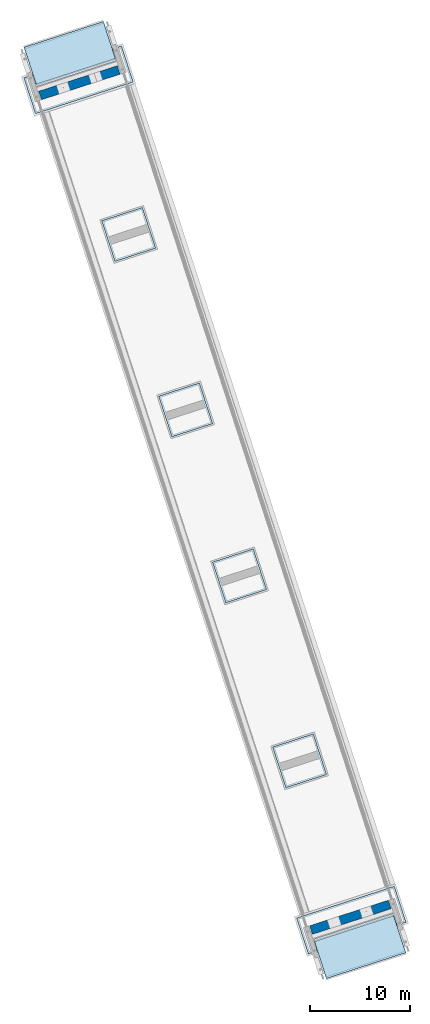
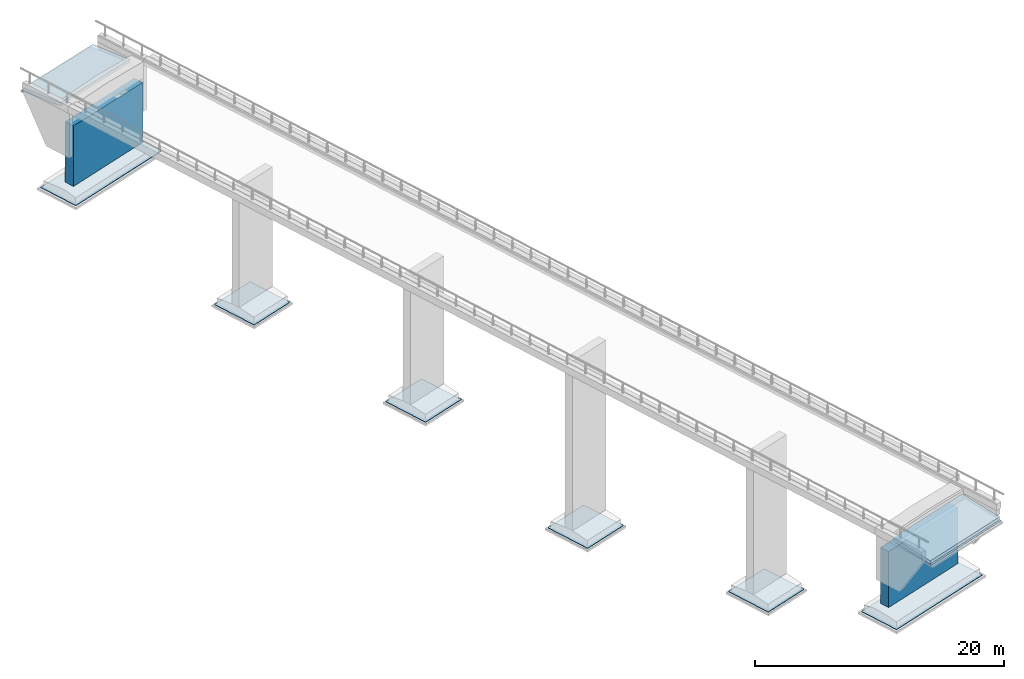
# Not in any storey, part 5 of 10: 10 slabs, 2 walls.
"""IFC4X3_ADD2 model written with IfcOpenShell, lengths in metres."""

import ifcopenshell
import ifcopenshell.guid

model = None  # the IFC model being written
_history = None  # IfcOwnerHistory: only IFC2X3 demands one
_inside = {}  # id of a spatial element -> (the spatial element, [elements in it])
_under = {}  # id of a project, library or spatial element -> (it, [spatial elements below it])
_declared = {}  # id of a project -> (the project, [libraries it declares])
_typed = {}  # id of a type object -> (the type object, [elements of that type])
_made_of = {}  # id of a material, layer set ... -> (it, [elements and type objects made of it])


def new_model(schema):
    """Start an empty IFC model of exactly this schema.

    Asked for "IFC4X3", IfcOpenShell would pick the latest addendum, in which some entities
    have other attributes; the version numbers below select the first issue.
    IFC2X3 requires an IfcOwnerHistory on every rooted entity: one is made here for all.
    """
    global model, _history
    if schema == "IFC4X3":
        model = ifcopenshell.file(schema_version=(4, 3, 0, 0))
    else:
        model = ifcopenshell.file(schema=schema)
    _inside.clear()
    _under.clear()
    _declared.clear()
    _typed.clear()
    _made_of.clear()
    _history = None
    if model.schema == "IFC2X3":
        org = make("IfcOrganization", Name="unknown")
        user = make(
            "IfcPersonAndOrganization",
            ThePerson=make("IfcPerson", FamilyName="unknown"),
            TheOrganization=org,
        )
        app = make(
            "IfcApplication",
            ApplicationDeveloper=org,
            Version="unknown",
            ApplicationFullName="unknown",
            ApplicationIdentifier="unknown",
        )
        _history = make(
            "IfcOwnerHistory",
            OwningUser=user,
            OwningApplication=app,
            ChangeAction="ADDED",
            CreationDate=0,
        )
    return model


def make(cls, **values):
    """One entity of the class cls with the attributes given. An attribute that is None is left unset."""
    return model.create_entity(
        cls, **{name: value for name, value in values.items() if value is not None}
    )


def entity(cls, *values):
    """Any entity or typed value of the class cls, its attributes in the order of the schema. None: left unset."""
    e = model.create_entity(cls)
    for i, value in enumerate(values):
        if value is not None:
            e[i] = value
    return e


def rooted(cls, **values):
    """An entity with a GlobalId (a new one), such as an element, a storey or a relation."""
    return make(cls, GlobalId=ifcopenshell.guid.new(), OwnerHistory=_history, **values)


def si_unit(unit_type, name, prefix=None):
    """IfcSIUnit, for example si_unit("LENGTHUNIT", "METRE", prefix="MILLI")."""
    return make("IfcSIUnit", UnitType=unit_type, Prefix=prefix, Name=name)


def converted_unit(unit_type, name, factor, base, dimensions=None, offset=None):
    """IfcConversionBasedUnit, such as the inch: factor (a typed value) times the base unit."""
    return make(
        "IfcConversionBasedUnit"
        if offset is None
        else "IfcConversionBasedUnitWithOffset",
        ConversionOffset=offset,
        Dimensions=None
        if dimensions is None
        else entity("IfcDimensionalExponents", *dimensions),
        UnitType=unit_type,
        Name=name,
        ConversionFactor=make(
            "IfcMeasureWithUnit", ValueComponent=factor, UnitComponent=base
        ),
    )


def derived_unit(unit_type, elements):
    """IfcDerivedUnit: a product of units, each with its exponent."""
    return make(
        "IfcDerivedUnit",
        Elements=[
            make("IfcDerivedUnitElement", Unit=unit, Exponent=power)
            for unit, power in elements
        ],
        UnitType=unit_type,
    )


def assignment(units):
    """IfcUnitAssignment: the units of a project."""
    return None if units is None else make("IfcUnitAssignment", Units=units)


def point(xyz):
    """IfcCartesianPoint."""
    return None if xyz is None else make("IfcCartesianPoint", Coordinates=xyz)


def direction(xyz):
    """IfcDirection."""
    return None if xyz is None else make("IfcDirection", DirectionRatios=xyz)


def frame(location, z_axis=None, x_axis=None):
    """IfcAxis2Placement3D, a coordinate frame: its origin and axes. An axis left out is left unset."""
    return make(
        "IfcAxis2Placement3D",
        Location=point(location),
        Axis=direction(z_axis),
        RefDirection=direction(x_axis),
    )


def frame_2d(location, x_axis=None):
    """IfcAxis2Placement2D, a coordinate frame in the plane: its origin and x axis."""
    return make(
        "IfcAxis2Placement2D", Location=point(location), RefDirection=direction(x_axis)
    )


def origin():
    """The frame at (0, 0, 0) with its axes left unset."""
    return frame((0.0, 0.0, 0.0))


def origin_2d():
    """The frame at (0, 0) in the plane with its x axis left unset."""
    return frame_2d((0.0, 0.0))


def place(relative_to, where):
    """IfcLocalPlacement: puts the frame where relative to a parent placement (None: the world)."""
    return make(
        "IfcLocalPlacement", PlacementRelTo=relative_to, RelativePlacement=where
    )


def context(
    kind, dimensions, precision=None, world=None, true_north=None, identifier=None
):
    """IfcGeometricRepresentationContext, for example the 3D "Model" context."""
    return make(
        "IfcGeometricRepresentationContext",
        ContextIdentifier=identifier,
        ContextType=kind,
        CoordinateSpaceDimension=dimensions,
        Precision=precision,
        WorldCoordinateSystem=world,
        TrueNorth=true_north,
    )


def subcontext(parent, identifier, kind, view, scale=None):
    """IfcGeometricRepresentationSubContext, for example "Body" below "Model"."""
    return make(
        "IfcGeometricRepresentationSubContext",
        ContextIdentifier=identifier,
        ContextType=kind,
        ParentContext=parent,
        TargetScale=scale,
        TargetView=view,
    )


def project(units=None, contexts=None):
    """IfcProject with its units and contexts."""
    return rooted(
        "IfcProject",
        Name="project",
        RepresentationContexts=contexts,
        UnitsInContext=assignment(units),
    )


def library(units=None, contexts=None, declared=None):
    """IfcProjectLibrary with its units and contexts. declared: the project that declares it."""
    lib = rooted(
        "IfcProjectLibrary",
        RepresentationContexts=contexts,
        UnitsInContext=assignment(units),
    )
    if declared is not None:
        _declared.setdefault(declared.id(), (declared, []))[1].append(lib)
    return lib


def spatial(cls, under=None, at=None, **own):
    """A site, building, storey or space (cls), placed at a placement, below another one or the project."""
    s = rooted(cls, ObjectPlacement=at, **own)
    if under is not None:
        _under.setdefault(under.id(), (under, []))[1].append(s)
    return s


def point_list(points):
    """IfcCartesianPointList2D or 3D."""
    cls = (
        "IfcCartesianPointList2D" if len(points[0]) == 2 else "IfcCartesianPointList3D"
    )
    return make(cls, CoordList=points)


def profile(cls, at=None, kind="AREA", **sizes):
    """A parametric profile (cls). Its sizes go by their IFC names, for example OverallWidth=200.0."""
    return make(cls, ProfileType=kind, Position=at, **sizes)


def rectangle(**sizes):
    """IfcRectangleProfileDef."""
    return profile("IfcRectangleProfileDef", **sizes)


def extrude(swept, where, along, depth):
    """IfcExtrudedAreaSolid: the profile swept, set in the frame where, extruded along a direction by depth."""
    return make(
        "IfcExtrudedAreaSolid",
        SweptArea=swept,
        Position=where,
        ExtrudedDirection=direction(along),
        Depth=depth,
    )


def polygons(points, faces, closed=None, point_numbers=None):
    """IfcPolygonalFaceSet: a face is its outer loop, then its inner loops; points numbered from 1."""
    made = []
    for loops in faces:
        if len(loops) == 1:
            made.append(make("IfcIndexedPolygonalFace", CoordIndex=loops[0]))
        else:
            made.append(
                make(
                    "IfcIndexedPolygonalFaceWithVoids",
                    CoordIndex=loops[0],
                    InnerCoordIndices=loops[1:],
                )
            )
    return make(
        "IfcPolygonalFaceSet",
        Coordinates=point_list(points),
        Closed=closed,
        Faces=made,
        PnIndex=point_numbers,
    )


def shape(context_of_items, identifier, shape_type, items):
    """IfcShapeRepresentation: the items that make up one representation, for example the "Body"."""
    return make(
        "IfcShapeRepresentation",
        ContextOfItems=context_of_items,
        RepresentationIdentifier=identifier,
        RepresentationType=shape_type,
        Items=items,
    )


def made_of(thing, what):
    """Note that an element or type object is made of a material, layer set ...; save() writes the relation."""
    if what is not None:
        _made_of.setdefault(what.id(), (what, []))[1].append(thing)
    return thing


def element(
    cls,
    number,
    at=None,
    inside=None,
    cuts=None,
    type_object=None,
    material=None,
    context=None,
    identifier="Body",
    shape_type=None,
    held_by="IfcProductDefinitionShape",
    body=None,
    shapes=None,
    **own,
):
    """One element of the class cls, such as IfcWall. Its Tag is "e" and its number.

    at: its placement. inside: the storey or other place that contains it. cuts: it is an
    opening in that element (IfcRelVoidsElement). A single representation is given by context,
    identifier, shape_type and body (its items); several are given by shapes. held_by: the class
    of the entity that holds the representations. save() writes the other relations.
    """
    e = rooted(cls, Tag="e%d" % number, ObjectPlacement=at, **own)
    if body is not None:
        shapes = [shape(context, identifier, shape_type, body)]
    if shapes is not None:
        e.Representation = make(held_by, Representations=shapes)
    if inside is not None:
        _inside.setdefault(inside.id(), (inside, []))[1].append(e)
    if cuts is not None:
        rooted(
            "IfcRelVoidsElement", RelatingBuildingElement=cuts, RelatedOpeningElement=e
        )
    if type_object is not None:
        _typed.setdefault(type_object.id(), (type_object, []))[1].append(e)
    return made_of(e, material)


def aggregate(whole, parts):
    """IfcRelAggregates: a whole, such as a stair, and the parts it consists of."""
    return rooted("IfcRelAggregates", RelatingObject=whole, RelatedObjects=parts)


def save(model, path):
    """Write the relations noted so far, then the file.

    IfcRelAggregates (storeys below a building ...), IfcRelContainedInSpatialStructure (elements
    in a storey), IfcRelDefinesByType, IfcRelAssociatesMaterial and IfcRelDeclares: one each for
    every whole, place, type object, material and project.
    """
    for whole, parts in _under.values():
        aggregate(whole, parts)
    for where, things in _inside.values():
        rooted(
            "IfcRelContainedInSpatialStructure",
            RelatedElements=things,
            RelatingStructure=where,
        )
    for kind, things in _typed.values():
        rooted("IfcRelDefinesByType", RelatedObjects=things, RelatingType=kind)
    for what, things in _made_of.values():
        rooted("IfcRelAssociatesMaterial", RelatedObjects=things, RelatingMaterial=what)
    for by, libraries in _declared.values():
        rooted("IfcRelDeclares", RelatingContext=by, RelatedDefinitions=libraries)
    model.write(path)


model = new_model("IFC4X3_ADD2")

# Units and contexts
model_context = context("Model", 3, precision=1e-05, world=origin(), true_north=direction((-0.011993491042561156, 0.9999280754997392)))
plan_context = context("Plan", 2, precision=1e-05, world=origin_2d())
body_context = subcontext(model_context, "Body", "Model", "MODEL_VIEW")
ifc_project = project(units=[si_unit("LENGTHUNIT", "METRE"), si_unit("AREAUNIT", "SQUARE_METRE"), si_unit("VOLUMEUNIT", "CUBIC_METRE"), si_unit("MASSUNIT", "GRAM", prefix="KILO"), converted_unit("TIMEUNIT", "year", entity("IfcTimeMeasure", 31557600.0), si_unit("TIMEUNIT", "SECOND"), dimensions=[0, 0, 1, 0, 0, 0, 0]), si_unit("PLANEANGLEUNIT", "RADIAN"), si_unit("THERMODYNAMICTEMPERATUREUNIT", "DEGREE_CELSIUS"), si_unit("FORCEUNIT", "NEWTON", prefix="KILO"), si_unit("PRESSUREUNIT", "PASCAL", prefix="MEGA"), si_unit("SOLIDANGLEUNIT", "STERADIAN"), derived_unit("MASSDENSITYUNIT", [(si_unit("MASSUNIT", "GRAM", prefix="KILO"), 1), (si_unit("VOLUMEUNIT", "CUBIC_METRE"), -1)]), derived_unit("MODULUSOFELASTICITYUNIT", [(si_unit("PRESSUREUNIT", "PASCAL", prefix="MEGA"), 1)]), derived_unit("THERMALEXPANSIONCOEFFICIENTUNIT", [(si_unit("THERMODYNAMICTEMPERATUREUNIT", "DEGREE_CELSIUS"), -1)])], contexts=[model_context, plan_context])
project_library = library(declared=ifc_project)

# Site, bridge, bridge parts
site_placement = place(None, origin())
site = spatial("IfcSite", under=ifc_project, at=site_placement, Name="Site BR-01", CompositionType="ELEMENT")
bridge_placement = place(site_placement, origin())
bridge = spatial("IfcBridge", under=site, at=bridge_placement, Name="BR-01", CompositionType="ELEMENT", PredefinedType="USERDEFINED")
bridge_part_1_placement = place(bridge_placement, origin())
bridge_part_1 = spatial("IfcBridgePart", under=bridge, at=bridge_part_1_placement, Name="Substructure", CompositionType="ELEMENT", PredefinedType="SUBSTRUCTURE", UsageType="VERTICAL")
bridge_part_2_placement = place(bridge_part_1_placement, frame((0.0, 0.0, 55.75)))
bridge_part_2 = spatial("IfcBridgePart", under=bridge_part_1, at=bridge_part_2_placement, Name="A1", CompositionType="ELEMENT", PredefinedType="ABUTMENT", UsageType="VERTICAL")

# Slabs
slab_1_placement = place(bridge_part_2_placement, frame((13.705652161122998, 116.54479153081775, 7.758800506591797), z_axis=(0.0, 0.0, 1.0), x_axis=(0.3088039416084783, -0.951125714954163, 0.0)))
element("IfcSlab", 1, at=slab_1_placement, inside=bridge_part_2, Name="Approach slab blinding A1", ObjectType="BLINDING", PredefinedType="USERDEFINED", context=body_context, shape_type="Tessellation", body=[
    polygons([(-1.95001, -4.19999, 0.05927), (-1.95001, -4.19999, 0.10926), (-1.94999, 4.2, 0.05), (-1.94999, 4.2, 0.0), (1.94999, -4.2, 0.44926), (1.95001, 4.19999, 0.39), (1.94999, -4.2, 0.49926), (1.95001, 4.19999, 0.44)], [[[1, 2, 3, 4]], [[5, 1, 4, 6]], [[7, 5, 6, 8]], [[4, 3, 6]], [[8, 6, 3]], [[2, 1, 5]], [[5, 7, 2]], [[2, 7, 8, 3]]], closed=True),
])
slab_2_placement = place(bridge_part_2_placement, frame((13.767412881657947, 116.35456839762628, 7.824153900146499), z_axis=(0.0, 0.0, 1.0), x_axis=(0.3088039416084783, -0.951125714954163, 0.0)))
element("IfcSlab", 2, at=slab_2_placement, inside=bridge_part_2, Name="Approach slab A1", PredefinedType="APPROACH_SLAB", context=body_context, shape_type="Tessellation", body=[
    polygons([(2.0, -4.15, 0.45856), (2.00001, 4.14999, 0.4), (2.00001, 4.14999, 0.7015), (2.0, -4.15, 0.76006), (-1.99999, 4.15, 0.3015), (-2.00001, -4.14999, 0.36006), (-1.99999, 4.15, 0.0), (-2.00001, -4.14999, 0.05856)], [[[1, 2, 3, 4]], [[4, 3, 5, 6]], [[6, 5, 7, 8]], [[6, 8, 1]], [[1, 4, 6]], [[7, 5, 2]], [[3, 2, 5]], [[8, 7, 2, 1]]], closed=True),
])

# Bridge part
bridge_part_3_placement = place(bridge_part_1_placement, frame((0.0, 0.0, 55.75)))
bridge_part_3 = spatial("IfcBridgePart", under=bridge_part_1, at=bridge_part_3_placement, Name="A2", CompositionType="ELEMENT", PredefinedType="ABUTMENT", UsageType="VERTICAL")

# Slabs
slab_3_placement = place(bridge_part_3_placement, frame((42.8256239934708, 26.853557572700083, 7.359668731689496), z_axis=(0.0, 0.0, 1.0), x_axis=(0.3088039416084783, -0.951125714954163, 0.0)))
element("IfcSlab", 3, at=slab_3_placement, inside=bridge_part_3, Name="Approach slab blinding A2", ObjectType="BLINDING", PredefinedType="USERDEFINED", context=body_context, shape_type="Tessellation", body=[
    polygons([(1.95001, 4.2, 0.05), (1.94999, -4.20001, 0.05003), (1.94999, -4.20001, 3e-05), (1.95001, 4.2, 0.0), (-1.95001, -4.2, 0.39003), (-1.94999, 4.20001, 0.39), (-1.95001, -4.2, 0.44003), (-1.94999, 4.20001, 0.44)], [[[1, 2, 3, 4]], [[4, 3, 5, 6]], [[6, 5, 7, 8]], [[6, 8, 1]], [[1, 4, 6]], [[7, 5, 2]], [[3, 2, 5]], [[8, 7, 2, 1]]], closed=True),
])
slab_4_placement = place(bridge_part_3_placement, frame((42.76386368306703, 27.04378294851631, 7.424671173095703), z_axis=(0.0, 0.0, 1.0), x_axis=(0.3088039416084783, -0.951125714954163, 0.0)))
element("IfcSlab", 4, at=slab_4_placement, inside=bridge_part_3, Name="Approach slab A2", PredefinedType="APPROACH_SLAB", context=body_context, shape_type="Tessellation", body=[
    polygons([(-1.99999, 4.15001, 0.4), (-2.00001, -4.15, 0.40003), (-2.00001, -4.15, 0.70153), (-1.99999, 4.15001, 0.7015), (1.99999, -4.15001, 0.30153), (2.00001, 4.15, 0.3015), (1.99999, -4.15001, 3e-05), (2.00001, 4.15, 0.0)], [[[1, 2, 3, 4]], [[4, 3, 5, 6]], [[6, 5, 7, 8]], [[1, 4, 6]], [[6, 8, 1]], [[3, 2, 5]], [[7, 5, 2]], [[8, 7, 2, 1]]], closed=True),
])
slab_5_placement = place(bridge_part_2_placement, frame((14.585737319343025, 113.83407946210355, 0.20000076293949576), z_axis=(0.0, 0.0, 1.0), x_axis=(0.3088039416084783, -0.951125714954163, 0.0)))
element("IfcSlab", 5, at=slab_5_placement, inside=bridge_part_2, Name="Blinding concrete A1", ObjectType="BLINDING", PredefinedType="USERDEFINED", context=body_context, shape_type="SweptSolid", body=[
    extrude(rectangle(XDim=3.800032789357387, YDim=10.30000785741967, at=frame_2d((-2.1442669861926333e-10, 6.204103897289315e-11))), origin(), (0.0, 0.0, 1.0), 0.04999923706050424),
])
slab_6_placement = place(bridge_part_3_placement, frame((41.94554017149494, 29.564268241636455, 0.20000076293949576), z_axis=(0.0, 0.0, 1.0), x_axis=(0.3088039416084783, -0.951125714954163, 0.0)))
element("IfcSlab", 6, at=slab_6_placement, inside=bridge_part_3, Name="Blinding concrete A2", ObjectType="BLINDING", PredefinedType="USERDEFINED", context=body_context, shape_type="SweptSolid", body=[
    extrude(rectangle(XDim=3.800026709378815, YDim=10.300010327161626, at=frame_2d((-8.108491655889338e-11, 1.9804158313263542e-11))), origin(), (0.0, 0.0, 1.0), 0.04999923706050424),
])

# Bridge part
bridge_part_4_placement = place(bridge_part_1_placement, frame((0.0, 0.0, 50.25)))
bridge_part_4 = spatial("IfcBridgePart", under=bridge_part_1, at=bridge_part_4_placement, Name="P1", CompositionType="ELEMENT", PredefinedType="PIER", UsageType="VERTICAL")

# Slab
slab_7_placement = place(bridge_part_4_placement, frame((19.61919403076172, 98.33071517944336, 0.20000076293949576), z_axis=(0.0, 0.0, 1.0), x_axis=(0.3088039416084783, -0.951125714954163, 0.0)))
element("IfcSlab", 7, at=slab_7_placement, inside=bridge_part_4, Name="Blinding concrete P1", ObjectType="BLINDING", PredefinedType="USERDEFINED", context=body_context, shape_type="SweptSolid", body=[
    extrude(rectangle(XDim=4.300014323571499, YDim=4.300009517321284, at=origin_2d()), origin(), (0.0, 0.0, 1.0), 0.04999923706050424),
])

# Bridge part
bridge_part_5_placement = place(bridge_part_1_placement, frame((0.0, 0.0, 49.4)))
bridge_part_5 = spatial("IfcBridgePart", under=bridge_part_1, at=bridge_part_5_placement, Name="P2", CompositionType="ELEMENT", PredefinedType="PIER", UsageType="VERTICAL")

# Slab
slab_8_placement = place(bridge_part_5_placement, frame((25.332021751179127, 80.73487504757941, 0.20000076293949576), z_axis=(0.0, 0.0, 1.0), x_axis=(0.3088039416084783, -0.951125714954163, 0.0)))
element("IfcSlab", 8, at=slab_8_placement, inside=bridge_part_5, Name="Blinding concrete P2", ObjectType="BLINDING", PredefinedType="USERDEFINED", context=body_context, shape_type="SweptSolid", body=[
    extrude(rectangle(XDim=4.300014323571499, YDim=4.300011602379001, at=frame_2d((2.795370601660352e-10, -1.1241785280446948e-10))), origin(), (0.0, 0.0, 1.0), 0.04999923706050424),
])

# Bridge part
bridge_part_6_placement = place(bridge_part_1_placement, frame((0.0, 0.0, 45.25)))
bridge_part_6 = spatial("IfcBridgePart", under=bridge_part_1, at=bridge_part_6_placement, Name="P3", CompositionType="ELEMENT", PredefinedType="PIER", UsageType="VERTICAL")

# Slab
slab_9_placement = place(bridge_part_6_placement, frame((30.73604679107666, 64.09016227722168, 0.20000076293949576), z_axis=(0.0, 0.0, 1.0), x_axis=(0.3088039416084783, -0.951125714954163, 0.0)))
element("IfcSlab", 9, at=slab_9_placement, inside=bridge_part_6, Name="Blinding concrete P3", ObjectType="BLINDING", PredefinedType="USERDEFINED", context=body_context, shape_type="SweptSolid", body=[
    extrude(rectangle(XDim=4.300010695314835, YDim=4.300010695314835, at=origin_2d()), origin(), (0.0, 0.0, 1.0), 0.04999923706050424),
])

# Bridge part
bridge_part_7_placement = place(bridge_part_1_placement, frame((0.0, 0.0, 48.15)))
bridge_part_7 = spatial("IfcBridgePart", under=bridge_part_1, at=bridge_part_7_placement, Name="P4", CompositionType="ELEMENT", PredefinedType="PIER", UsageType="VERTICAL")

# Slab
slab_10_placement = place(bridge_part_7_placement, frame((36.757675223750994, 45.54319381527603, 0.20000076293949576), z_axis=(0.0, 0.0, 1.0), x_axis=(0.3088039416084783, -0.951125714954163, 0.0)))
element("IfcSlab", 10, at=slab_10_placement, inside=bridge_part_7, Name="Blinding concrete P4", ObjectType="BLINDING", PredefinedType="USERDEFINED", context=body_context, shape_type="SweptSolid", body=[
    extrude(rectangle(XDim=4.3000107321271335, YDim=4.300011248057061, at=frame_2d((3.1346170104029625e-10, -8.916134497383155e-11))), origin(), (0.0, 0.0, 1.0), 0.04999923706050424),
])

# Walls
wall_1_placement = place(bridge_part_2_placement, frame((14.678379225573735, 113.5487407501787, 1.0499992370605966), z_axis=(0.0, 0.0, 1.0), x_axis=(0.3088039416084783, -0.951125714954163, 0.0)))
element("IfcWall", 11, at=wall_1_placement, inside=bridge_part_2, Name="Abutment front wall A1", PredefinedType="RETAININGWALL", context=body_context, shape_type="Tessellation", body=[
    polygons([(0.45001, 4.15, 5.86794), (-0.44999, 4.15, 5.86794), (-0.45001, -4.15, 5.92558), (0.44999, -4.15, 5.92558), (-0.44999, 4.15, 0.0), (-0.45001, -4.15, 0.0), (0.45001, 4.15, 0.0), (0.44999, -4.15, 0.0)], [[[1, 2, 3, 4]], [[2, 5, 6, 3]], [[5, 7, 8, 6]], [[4, 3, 6, 8]], [[7, 5, 2, 1]], [[7, 1, 4, 8]]], closed=True),
])
wall_2_placement = place(bridge_part_3_placement, frame((41.852899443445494, 29.84960598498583, 1.0499992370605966), z_axis=(0.0, 0.0, 1.0), x_axis=(0.3088039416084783, -0.951125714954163, 0.0)))
element("IfcWall", 12, at=wall_2_placement, inside=bridge_part_3, Name="Abutment front wall A2", PredefinedType="RETAININGWALL", context=body_context, shape_type="SweptSolid", body=[
    extrude(rectangle(XDim=0.9000216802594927, YDim=8.300007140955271, at=frame_2d((-1.6550757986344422e-10, 7.784883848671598e-11))), origin(), (0.0, 0.0, 1.0), 5.481834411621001),
])

save(model, "model.ifc")
